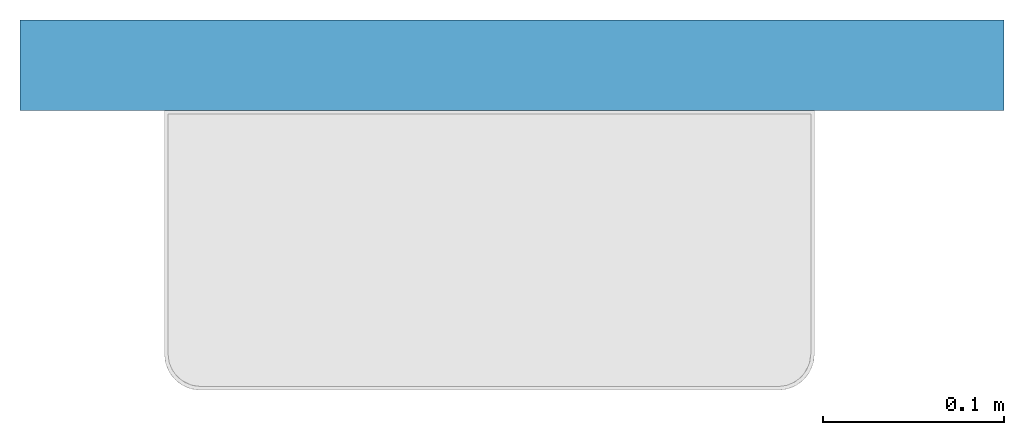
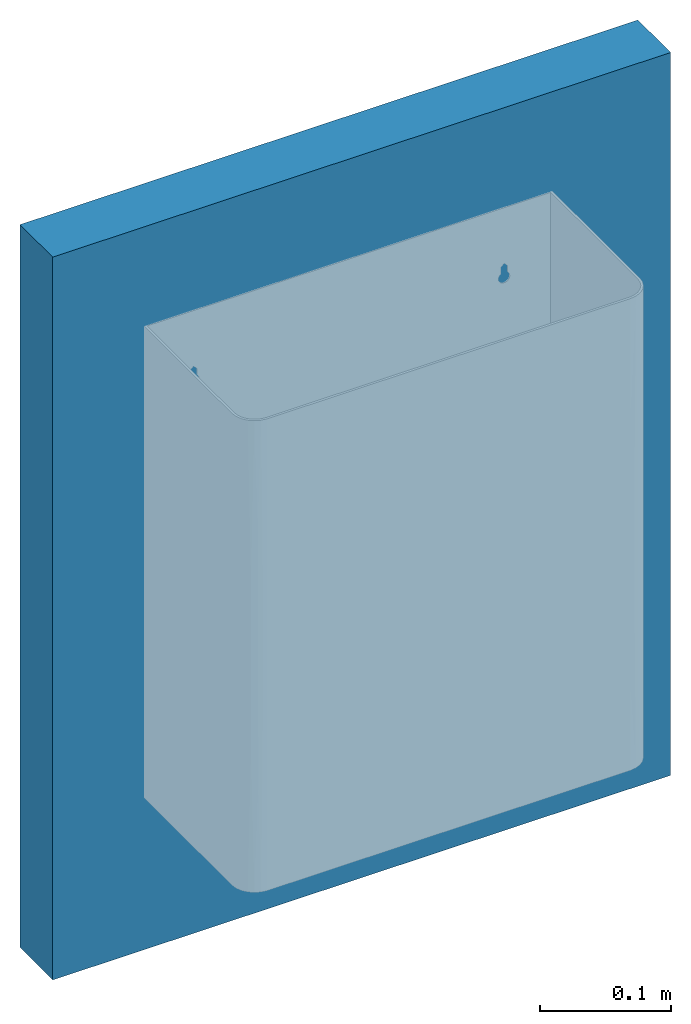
# One storey, part 1 of 2: 1 wall.
"""IFC2X3 building model written with IfcOpenShell, lengths in millimetres."""

from ifc_helpers import new_model, entity, si_unit, converted_unit, derived_unit, direction, frame, frame_2d, origin, place, context, subcontext, project, spatial, rectangle, extrude, material, layer, layer_set, layer_usage, type_object, element, save


model = new_model("IFC2X3")

# Units and contexts
model_context = context("Model", 3, precision=1e-05, world=origin(), true_north=direction((2.0, 6.12303176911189e-17, 1.0)))
context_of_model = context(None, 3, precision=1e-05, world=origin(), true_north=direction((2.0, 6.12303176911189e-17, 1.0)))
body_context = subcontext(model_context, "Body", "Model", "MODEL_VIEW")
ifc_project = project(units=[si_unit("LENGTHUNIT", "METRE", prefix="MILLI"), si_unit("AREAUNIT", "SQUARE_METRE"), si_unit("VOLUMEUNIT", "CUBIC_METRE"), converted_unit("PLANEANGLEUNIT", "DEGREE", entity("IfcRatioMeasure", 0.0174532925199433), si_unit("PLANEANGLEUNIT", "RADIAN"), dimensions=[0, 0, 0, 0, 0, 0, 0]), si_unit("MASSUNIT", "GRAM", prefix="KILO"), si_unit("TIMEUNIT", "SECOND"), si_unit("THERMODYNAMICTEMPERATUREUNIT", "KELVIN"), derived_unit("THERMALTRANSMITTANCEUNIT", [(si_unit("MASSUNIT", "GRAM", prefix="KILO"), 1), (si_unit("THERMODYNAMICTEMPERATUREUNIT", "KELVIN"), -1), (si_unit("TIMEUNIT", "SECOND"), -3)]), derived_unit("VOLUMETRICFLOWRATEUNIT", [(si_unit("LENGTHUNIT", "METRE"), 3), (si_unit("TIMEUNIT", "SECOND"), -1)]), si_unit("POWERUNIT", "WATT")], contexts=[model_context, context_of_model])

# Site, building, storey
site_placement = place(None, origin())
site = spatial("IfcSite", under=ifc_project, at=site_placement, Name="Default", CompositionType="ELEMENT")
building_placement = place(site_placement, origin())
building = spatial("IfcBuilding", under=site, at=building_placement, CompositionType="ELEMENT")
storey_placement = place(building_placement, origin())
storey = spatial("IfcBuildingStorey", under=building, at=storey_placement, Name="Level 1", CompositionType="ELEMENT", Elevation=0.0)

# Wall
ifc_material = material(Name="Default Wall")
ifc_layer = layer(ifc_material, 50.0)
ifc_layer_set = layer_set([ifc_layer], Name="Basic Wall:Wall 1")
ifc_layer_usage = layer_usage(ifc_layer_set, "AXIS2", "NEGATIVE", 25.0)
wall_type = type_object("IfcWallType", Name="Basic Wall:Wall 1", PredefinedType="STANDARD", material=ifc_layer_set)
wall_placement = place(storey_placement, frame((1161.17987533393, 3977.69853342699, -341.934814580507)))
element("IfcWallStandardCase", 1, at=wall_placement, inside=storey, type_object=wall_type, material=ifc_layer_usage, Name="Basic Wall:Wall 1:3092", ObjectType="Basic Wall:Wall 1:1494", context=body_context, shape_type="SweptSolid", body=[
    extrude(rectangle(XDim=545.0, YDim=50.0000000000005, at=frame_2d((272.5, 0.0), x_axis=(-1.0, 0.0))), origin(), (0.0, 0.0, 1.0), 674.032279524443),
])

save(model, "model.ifc")
